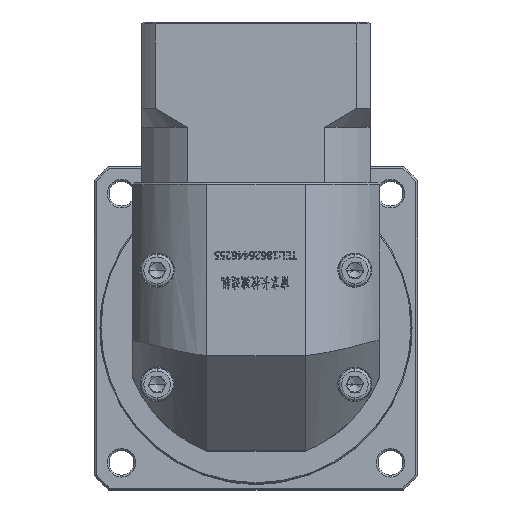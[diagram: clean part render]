
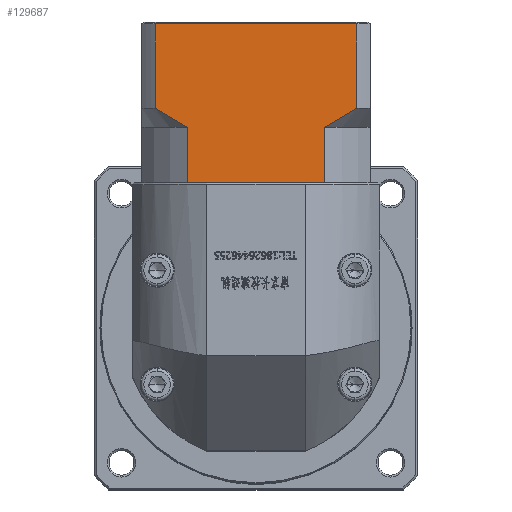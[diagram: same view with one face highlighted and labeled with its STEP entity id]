
A CAD part, top view. The second image highlights one B-rep face of the part: STEP entity #129687.
In plain terms, the highlighted planar face has unit normal (0, 0, 1).
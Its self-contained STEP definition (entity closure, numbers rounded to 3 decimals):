
#201 = CARTESIAN_POINT ( 'NONE',  ( 9.898, 56.857, 245.652 ) ) ;
#1916 = CARTESIAN_POINT ( 'NONE',  ( -36.108, 54.31, 245.652 ) ) ;
#2449 = ORIENTED_EDGE ( 'NONE', *, *, #45019, .T. ) ;
#8146 = VECTOR ( 'NONE', #135317, 1000. ) ;
#13851 = VERTEX_POINT ( 'NONE', #96282 ) ;
#15151 = CARTESIAN_POINT ( 'NONE',  ( -33.225, 52.759, 245.652 ) ) ;
#17045 = ORIENTED_EDGE ( 'NONE', *, *, #102947, .T. ) ;
#17956 = ORIENTED_EDGE ( 'NONE', *, *, #151045, .T. ) ;
#22407 = LINE ( 'NONE', #91966, #118927 ) ;
#23810 = VECTOR ( 'NONE', #117731, 1000. ) ;
#26027 = CARTESIAN_POINT ( 'NONE',  ( 5.713, 54.309, 245.652 ) ) ;
#26458 = CARTESIAN_POINT ( 'NONE',  ( -33.225, 52.759, 245.652 ) ) ;
#26733 = EDGE_CURVE ( 'NONE', #95858, #155063, #106209, .T. ) ;
#27429 = LINE ( 'NONE', #118820, #93122 ) ;
#30336 = VERTEX_POINT ( 'NONE', #78446 ) ;
#34083 = FACE_OUTER_BOUND ( 'NONE', #162507, .T. ) ;
#34149 = VERTEX_POINT ( 'NONE', #144435 ) ;
#36904 = CARTESIAN_POINT ( 'NONE',  ( -32.234, 38.259, 245.652 ) ) ;
#39435 = LINE ( 'NONE', #124332, #109198 ) ;
#40758 = ORIENTED_EDGE ( 'NONE', *, *, #154561, .F. ) ;
#45019 = EDGE_CURVE ( 'NONE', #118239, #112156, #94964, .T. ) ;
#45775 = DIRECTION ( 'NONE',  ( 1., 0., 0. ) ) ;
#46669 = VERTEX_POINT ( 'NONE', #36904 ) ;
#47730 = ORIENTED_EDGE ( 'NONE', *, *, #26733, .T. ) ;
#50292 = EDGE_CURVE ( 'NONE', #34149, #110138, #67509, .T. ) ;
#50693 = CARTESIAN_POINT ( 'NONE',  ( -45.197, 80.459, 245.652 ) ) ;
#52406 = CARTESIAN_POINT ( 'NONE',  ( -33.225, 52.759, 245.652 ) ) ;
#54137 = CARTESIAN_POINT ( 'NONE',  ( -40.295, 56.859, 245.652 ) ) ;
#56718 = CARTESIAN_POINT ( 'NONE',  ( 11.261, 52.759, 245.652 ) ) ;
#59034 = AXIS2_PLACEMENT_3D ( 'NONE', #50693, #142454, #63895 ) ;
#61592 = EDGE_CURVE ( 'NONE', #13851, #30336, #39435, .T. ) ;
#63895 = DIRECTION ( 'NONE',  ( 0., 1., 0. ) ) ;
#64478 = DIRECTION ( 'NONE',  ( -1., 0., 0. ) ) ;
#64642 = CARTESIAN_POINT ( 'NONE',  ( 2.831, 52.759, 245.652 ) ) ;
#65650 = CARTESIAN_POINT ( 'NONE',  ( 4.287, 53.509, 245.652 ) ) ;
#67509 = B_SPLINE_CURVE_WITH_KNOTS ( 'NONE', 3,
 ( #145942, #54137, #80627, #1916, #93751, #15151 ),
 .UNSPECIFIED., .F., .F.,
 ( 4, 2, 4 ),
 ( 0.052, 0.057, 0.062 ),
 .UNSPECIFIED. ) ;
#76703 = DIRECTION ( 'NONE',  ( 1., 0., 0. ) ) ;
#78446 = CARTESIAN_POINT ( 'NONE',  ( 2.831, 38.259, 245.652 ) ) ;
#78918 = CARTESIAN_POINT ( 'NONE',  ( 8.518, 55.983, 245.652 ) ) ;
#80627 = CARTESIAN_POINT ( 'NONE',  ( -38.916, 55.986, 245.652 ) ) ;
#81469 = ORIENTED_EDGE ( 'NONE', *, *, #61592, .T. ) ;
#91966 = CARTESIAN_POINT ( 'NONE',  ( -45.197, 38.259, 245.652 ) ) ;
#92036 = CARTESIAN_POINT ( 'NONE',  ( 11.261, 57.759, 245.652 ) ) ;
#93122 = VECTOR ( 'NONE', #145211, 1000. ) ;
#93647 = LINE ( 'NONE', #26458, #23810 ) ;
#93751 = CARTESIAN_POINT ( 'NONE',  ( -34.677, 53.507, 245.652 ) ) ;
#93859 = CARTESIAN_POINT ( 'NONE',  ( 11.261, 79.959, 245.652 ) ) ;
#94964 = LINE ( 'NONE', #116684, #160532 ) ;
#95858 = VERTEX_POINT ( 'NONE', #64642 ) ;
#96282 = CARTESIAN_POINT ( 'NONE',  ( 1.84, 38.259, 245.652 ) ) ;
#101882 = VECTOR ( 'NONE', #132172, 1000. ) ;
#102947 = EDGE_CURVE ( 'NONE', #117610, #46669, #22407, .T. ) ;
#105963 = LINE ( 'NONE', #116711, #101882 ) ;
#106209 = B_SPLINE_CURVE_WITH_KNOTS ( 'NONE', 3,
 ( #157302, #65650, #26027, #78918, #201, #92036 ),
 .UNSPECIFIED., .F., .F.,
 ( 4, 2, 4 ),
 ( 0.1, 0.104, 0.109 ),
 .UNSPECIFIED. ) ;
#107061 = EDGE_CURVE ( 'NONE', #117610, #110138, #93647, .T. ) ;
#108652 = LINE ( 'NONE', #56718, #8146 ) ;
#109198 = VECTOR ( 'NONE', #45775, 1000. ) ;
#110138 = VERTEX_POINT ( 'NONE', #52406 ) ;
#112156 = VERTEX_POINT ( 'NONE', #165503 ) ;
#114175 = LINE ( 'NONE', #168332, #149030 ) ;
#116684 = CARTESIAN_POINT ( 'NONE',  ( -45.197, 79.959, 245.652 ) ) ;
#116711 = CARTESIAN_POINT ( 'NONE',  ( 2.831, 52.759, 245.652 ) ) ;
#117610 = VERTEX_POINT ( 'NONE', #143415 ) ;
#117731 = DIRECTION ( 'NONE',  ( 0., 1., 0. ) ) ;
#118239 = VERTEX_POINT ( 'NONE', #93859 ) ;
#118820 = CARTESIAN_POINT ( 'NONE',  ( -41.654, 52.759, 245.652 ) ) ;
#118927 = VECTOR ( 'NONE', #131531, 1000. ) ;
#122697 = EDGE_CURVE ( 'NONE', #95858, #30336, #105963, .T. ) ;
#123200 = CARTESIAN_POINT ( 'NONE',  ( 11.261, 57.759, 245.652 ) ) ;
#124332 = CARTESIAN_POINT ( 'NONE',  ( -45.197, 38.259, 245.652 ) ) ;
#129687 = ADVANCED_FACE ( 'NONE', ( #34083 ), #168211, .F. ) ;
#131531 = DIRECTION ( 'NONE',  ( 1., 0., 0. ) ) ;
#132172 = DIRECTION ( 'NONE',  ( 0., -1., 0. ) ) ;
#134874 = ORIENTED_EDGE ( 'NONE', *, *, #107061, .F. ) ;
#135317 = DIRECTION ( 'NONE',  ( 0., -1., 0. ) ) ;
#142454 = DIRECTION ( 'NONE',  ( 0., 0., -1. ) ) ;
#143415 = CARTESIAN_POINT ( 'NONE',  ( -33.225, 38.259, 245.652 ) ) ;
#144435 = CARTESIAN_POINT ( 'NONE',  ( -41.654, 57.759, 245.652 ) ) ;
#145211 = DIRECTION ( 'NONE',  ( 0., 1., 0. ) ) ;
#145942 = CARTESIAN_POINT ( 'NONE',  ( -41.654, 57.759, 245.652 ) ) ;
#149030 = VECTOR ( 'NONE', #76703, 1000. ) ;
#151045 = EDGE_CURVE ( 'NONE', #46669, #13851, #114175, .T. ) ;
#153276 = ORIENTED_EDGE ( 'NONE', *, *, #122697, .F. ) ;
#154561 = EDGE_CURVE ( 'NONE', #34149, #112156, #27429, .T. ) ;
#155063 = VERTEX_POINT ( 'NONE', #123200 ) ;
#157302 = CARTESIAN_POINT ( 'NONE',  ( 2.831, 52.759, 245.652 ) ) ;
#158176 = ORIENTED_EDGE ( 'NONE', *, *, #169583, .F. ) ;
#160532 = VECTOR ( 'NONE', #64478, 1000. ) ;
#160551 = ORIENTED_EDGE ( 'NONE', *, *, #50292, .T. ) ;
#162507 = EDGE_LOOP ( 'NONE', ( #158176, #2449, #40758, #160551, #134874, #17045, #17956, #81469, #153276, #47730 ) ) ;
#165503 = CARTESIAN_POINT ( 'NONE',  ( -41.654, 79.959, 245.652 ) ) ;
#168211 = PLANE ( 'NONE',  #59034 ) ;
#168332 = CARTESIAN_POINT ( 'NONE',  ( -45.197, 38.259, 245.652 ) ) ;
#169583 = EDGE_CURVE ( 'NONE', #118239, #155063, #108652, .T. ) ;
